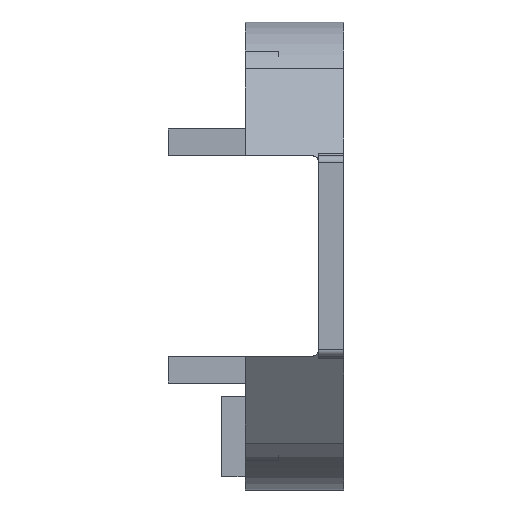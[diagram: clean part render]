
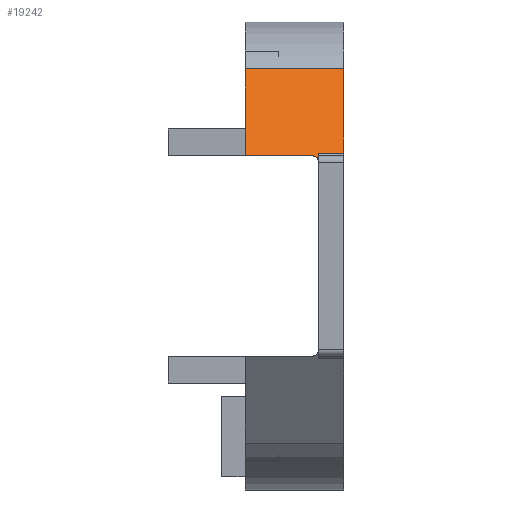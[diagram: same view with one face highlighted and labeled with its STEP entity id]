
A CAD part, left-side view. The second image highlights one B-rep face of the part: STEP entity #19242.
In plain terms, the highlighted planar face has unit normal (-0.8, 0, 0.6).
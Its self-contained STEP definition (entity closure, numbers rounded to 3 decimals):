
#818 = ORIENTED_EDGE ( 'NONE', *, *, #15407, .T. ) ;
#1932 = LINE ( 'NONE', #8046, #5410 ) ;
#2382 = VERTEX_POINT ( 'NONE', #10380 ) ;
#2433 = VERTEX_POINT ( 'NONE', #21123 ) ;
#3130 = DIRECTION ( 'NONE',  ( -0.6, 0., -0.8 ) ) ;
#4175 = CARTESIAN_POINT ( 'NONE',  ( -99.4, 0., 30.8 ) ) ;
#4636 = EDGE_CURVE ( 'NONE', #6198, #2382, #10385, .T. ) ;
#4795 = CARTESIAN_POINT ( 'NONE',  ( -100., 8.328, 30. ) ) ;
#5410 = VECTOR ( 'NONE', #5997, 1000. ) ;
#5487 = EDGE_LOOP ( 'NONE', ( #17785, #818, #25001, #10791, #20482, #10806, #9782 ) ) ;
#5997 = DIRECTION ( 'NONE',  ( 0.6, 0., 0.8 ) ) ;
#6198 = VERTEX_POINT ( 'NONE', #20538 ) ;
#6705 = CARTESIAN_POINT ( 'NONE',  ( -100., 9.5, 30. ) ) ;
#7081 = DIRECTION ( 'NONE',  ( 0.8, 0., -0.6 ) ) ;
#7251 = CARTESIAN_POINT ( 'NONE',  ( -78.4, 7.5, 58.8 ) ) ;
#7483 = DIRECTION ( 'NONE',  ( 0., 1., 0. ) ) ;
#7589 = VECTOR ( 'NONE', #18503, 1000. ) ;
#8046 = CARTESIAN_POINT ( 'NONE',  ( -100., 29.5, 30. ) ) ;
#8880 = CARTESIAN_POINT ( 'NONE',  ( -100.621, 7.5, 29.172 ) ) ;
#9425 = LINE ( 'NONE', #7251, #22275 ) ;
#9782 = ORIENTED_EDGE ( 'NONE', *, *, #16383, .T. ) ;
#10380 = CARTESIAN_POINT ( 'NONE',  ( -101.5, 7.5, 28. ) ) ;
#10385 =( BOUNDED_CURVE ( )  B_SPLINE_CURVE ( 3, ( #6705, #4795, #8880, #17162 ),
 .UNSPECIFIED., .F., .T. ) 
 B_SPLINE_CURVE_WITH_KNOTS ( ( 4, 4 ),
 ( 3.142, 4.712 ),
 .UNSPECIFIED. ) 
 CURVE ( )  GEOMETRIC_REPRESENTATION_ITEM ( )  RATIONAL_B_SPLINE_CURVE ( ( 1., 0.805, 0.805, 1. ) ) 
 REPRESENTATION_ITEM ( '' )  );
#10522 = EDGE_CURVE ( 'NONE', #17865, #23222, #1932, .T. ) ;
#10527 = EDGE_CURVE ( 'NONE', #17865, #6198, #18776, .T. ) ;
#10578 = VECTOR ( 'NONE', #15643, 1000. ) ;
#10791 = ORIENTED_EDGE ( 'NONE', *, *, #10527, .T. ) ;
#10806 = ORIENTED_EDGE ( 'NONE', *, *, #15776, .T. ) ;
#10986 = VECTOR ( 'NONE', #7483, 1000. ) ;
#11617 = CARTESIAN_POINT ( 'NONE',  ( -100., 29.5, 30. ) ) ;
#11923 = VERTEX_POINT ( 'NONE', #13115 ) ;
#13047 = CARTESIAN_POINT ( 'NONE',  ( -78.4, 0., 58.8 ) ) ;
#13115 = CARTESIAN_POINT ( 'NONE',  ( -99.4, 7.5, 30.8 ) ) ;
#13364 = CARTESIAN_POINT ( 'NONE',  ( -80.5, 29.5, 56. ) ) ;
#13464 = CARTESIAN_POINT ( 'NONE',  ( -80.5, 7.5, 56. ) ) ;
#14633 = LINE ( 'NONE', #4175, #16578 ) ;
#14952 = FACE_OUTER_BOUND ( 'NONE', #5487, .T. ) ;
#15088 = PLANE ( 'NONE',  #24405 ) ;
#15183 = DIRECTION ( 'NONE',  ( 0., -1., 0. ) ) ;
#15407 = EDGE_CURVE ( 'NONE', #19803, #23222, #24540, .T. ) ;
#15643 = DIRECTION ( 'NONE',  ( 0.6, 0., 0.8 ) ) ;
#15776 = EDGE_CURVE ( 'NONE', #2382, #11923, #9425, .T. ) ;
#16383 = EDGE_CURVE ( 'NONE', #11923, #2433, #14633, .T. ) ;
#16578 = VECTOR ( 'NONE', #15183, 1000. ) ;
#17162 = CARTESIAN_POINT ( 'NONE',  ( -101.5, 7.5, 28. ) ) ;
#17785 = ORIENTED_EDGE ( 'NONE', *, *, #19266, .T. ) ;
#17865 = VERTEX_POINT ( 'NONE', #11617 ) ;
#18503 = DIRECTION ( 'NONE',  ( 0., -1., 0. ) ) ;
#18776 = LINE ( 'NONE', #22847, #7589 ) ;
#19242 = ADVANCED_FACE ( 'NONE', ( #14952 ), #15088, .F. ) ;
#19266 = EDGE_CURVE ( 'NONE', #2433, #19803, #23793, .T. ) ;
#19714 = CARTESIAN_POINT ( 'NONE',  ( -78.4, 7.5, 58.8 ) ) ;
#19803 = VERTEX_POINT ( 'NONE', #26632 ) ;
#20482 = ORIENTED_EDGE ( 'NONE', *, *, #4636, .T. ) ;
#20538 = CARTESIAN_POINT ( 'NONE',  ( -100., 9.5, 30. ) ) ;
#21123 = CARTESIAN_POINT ( 'NONE',  ( -99.4, 0., 30.8 ) ) ;
#22275 = VECTOR ( 'NONE', #23557, 1000. ) ;
#22847 = CARTESIAN_POINT ( 'NONE',  ( -100., 29.5, 30. ) ) ;
#23222 = VERTEX_POINT ( 'NONE', #13364 ) ;
#23557 = DIRECTION ( 'NONE',  ( 0.6, 0., 0.8 ) ) ;
#23793 = LINE ( 'NONE', #13047, #10578 ) ;
#24405 = AXIS2_PLACEMENT_3D ( 'NONE', #19714, #7081, #3130 ) ;
#24540 = LINE ( 'NONE', #13464, #10986 ) ;
#25001 = ORIENTED_EDGE ( 'NONE', *, *, #10522, .F. ) ;
#26632 = CARTESIAN_POINT ( 'NONE',  ( -80.5, 0., 56. ) ) ;
